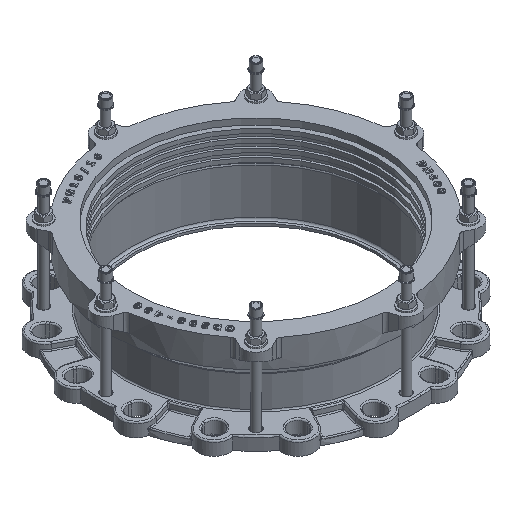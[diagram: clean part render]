
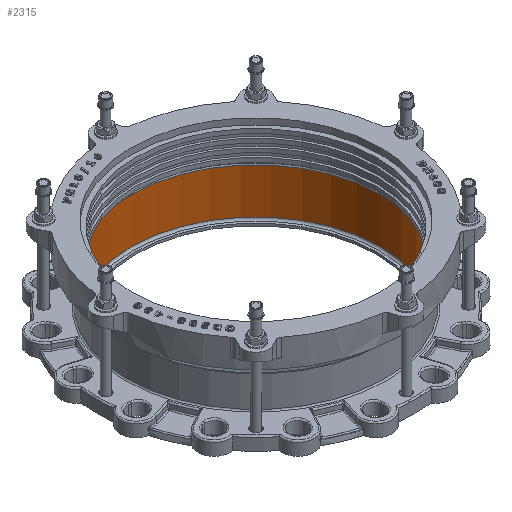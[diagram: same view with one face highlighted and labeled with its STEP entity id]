
A CAD part, isometric view. The second image highlights one B-rep face of the part: STEP entity #2315.
In plain terms, the highlighted cylindrical face has radius 215 mm (diameter 430 mm), a full revolution.
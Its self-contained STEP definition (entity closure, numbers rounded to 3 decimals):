
#2315=ADVANCED_FACE('',(#16655,#16657),#16659,.F.);
#16655=FACE_OUTER_BOUND('',#16656,.T.);
#16656=EDGE_LOOP('',(#24444));
#16657=FACE_OUTER_BOUND('',#16658,.T.);
#16658=EDGE_LOOP('',(#24445));
#16659=CYLINDRICAL_SURFACE('',#16660,215.);
#16660=AXIS2_PLACEMENT_3D('',#16661,#16662,#16663);
#16661=CARTESIAN_POINT('',(0.,0.,4.));
#16662=DIRECTION('',(0.,0.,1.));
#16663=DIRECTION('',(-1.,0.,0.));
#24444=ORIENTED_EDGE('',*,*,#30640,.F.);
#24445=ORIENTED_EDGE('',*,*,#30639,.T.);
#30639=EDGE_CURVE('',#34910,#34910,#34911,.F.);
#30640=EDGE_CURVE('',#34912,#34912,#34913,.T.);
#34910=VERTEX_POINT('',#50538);
#34911=CIRCLE('',#50539,215.);
#34912=VERTEX_POINT('',#50543);
#34913=CIRCLE('',#50544,215.);
#50538=CARTESIAN_POINT('',(0.,215.,7.5));
#50539=AXIS2_PLACEMENT_3D('',#50540,#50541,#50542);
#50540=CARTESIAN_POINT('',(0.,0.,7.5));
#50541=DIRECTION('',(0.,0.,1.));
#50542=DIRECTION('',(0.,1.,0.));
#50543=CARTESIAN_POINT('',(0.,215.,85.25));
#50544=AXIS2_PLACEMENT_3D('',#50545,#50546,#50547);
#50545=CARTESIAN_POINT('',(0.,0.,85.25));
#50546=DIRECTION('',(0.,0.,-1.));
#50547=DIRECTION('',(0.,1.,0.));
